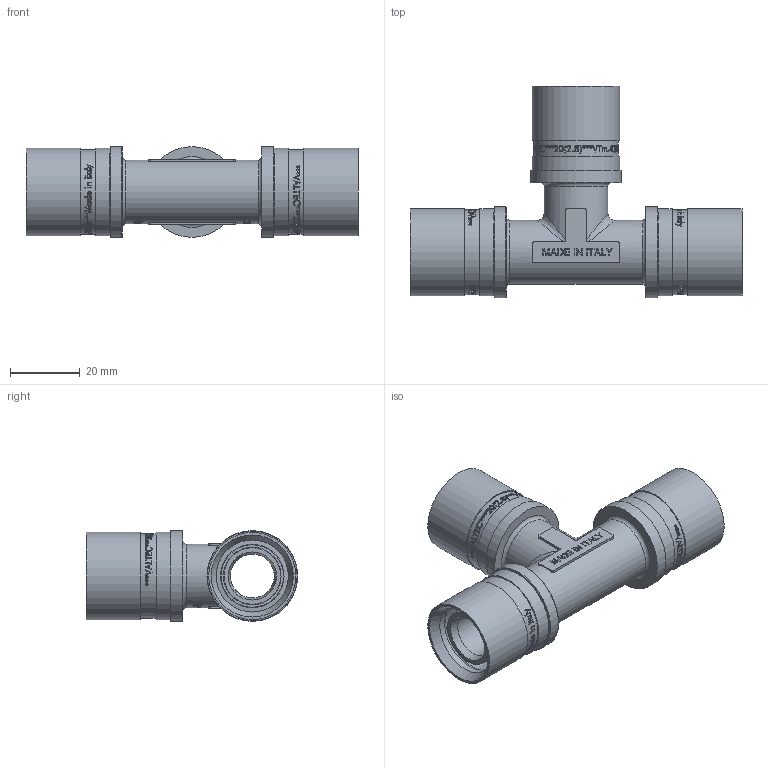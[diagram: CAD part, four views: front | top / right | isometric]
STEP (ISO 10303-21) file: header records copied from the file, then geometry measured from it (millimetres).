
FILE_DESCRIPTION(/* description */ (''),/* implementation_level */ '2;1');
FILE_NAME(/* name */ 'F:\Артём\00000\Работа удаленка\Аксеальные фитинги\VTm.431.BG.202020.stp',/* time_stamp */ '2021-01-26T12:07:54+03:00',/* author */ ('almis'),/* organization */ (''),/* preprocessor_version */ 'ST-DEVELOPER v18',/* originating_system */ 'Autodesk Inventor 2020',/* authorisation */ '');
FILE_SCHEMA (('AUTOMOTIVE_DESIGN { 1 0 10303 214 3 1 1 }'));
Length unit declared in the file: millimetre
Products named in the file (1): VTm.403.BG.001616
Bounding box: 95.12 x 60.55 x 26 mm (x, y, z)
Volume: 26412.6 mm3; surface area: 25046.8 mm2
Topology: 1 solids, 1 shells, 2434 faces, 6611 edges, 4443 vertices
Faces by surface type: bspline 1281, plane 829, cylinder 277, torus 25, cone 22
Full cylindrical faces by diameter (mm): 12.6 x2, 15.7 x15, 16.5 x12, 18.2 x3, 18.3 x2, 20.65 x6, 24.3 x3, 25 x6, 26 x3
Entity records: 101169 total; most frequent: CARTESIAN_POINT 47446, ORIENTED_EDGE 13222, DIRECTION 7343, EDGE_CURVE 6611, VERTEX_POINT 4443, LINE 3009, VECTOR 3009, EDGE_LOOP 2702
